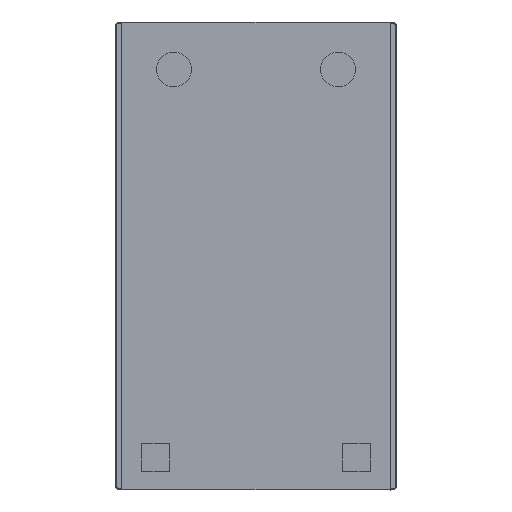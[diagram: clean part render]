
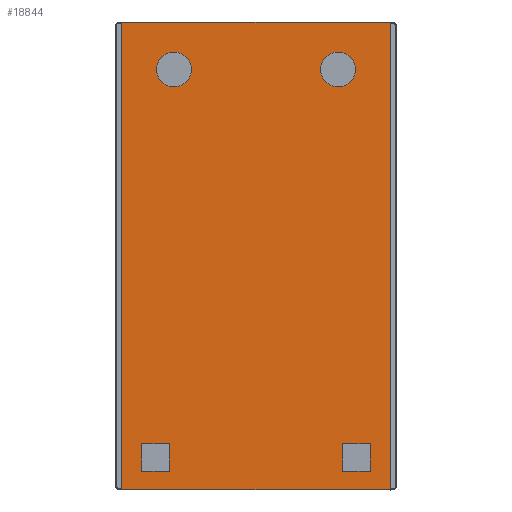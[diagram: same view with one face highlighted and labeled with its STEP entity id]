
A CAD part, front view. The second image highlights one B-rep face of the part: STEP entity #18844.
In plain terms, the highlighted planar face has unit normal (0, -1, 0).
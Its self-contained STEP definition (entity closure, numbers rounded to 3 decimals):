
#85 = VECTOR ( 'NONE', #9975, 1000. ) ;
#90 = ORIENTED_EDGE ( 'NONE', *, *, #9244, .F. ) ;
#97 = CARTESIAN_POINT ( 'NONE',  ( 9.2, 0., -193.7 ) ) ;
#164 = VERTEX_POINT ( 'NONE', #97 ) ;
#330 = EDGE_CURVE ( 'NONE', #4311, #13439, #17697, .T. ) ;
#360 = VECTOR ( 'NONE', #4189, 1000. ) ;
#396 = VECTOR ( 'NONE', #13248, 1000. ) ;
#790 = FACE_BOUND ( 'NONE', #17675, .T. ) ;
#849 = ORIENTED_EDGE ( 'NONE', *, *, #10209, .T. ) ;
#932 = ORIENTED_EDGE ( 'NONE', *, *, #7067, .F. ) ;
#1125 = PLANE ( 'NONE',  #8929 ) ;
#1225 = DIRECTION ( 'NONE',  ( 0., -1., 0. ) ) ;
#1666 = VECTOR ( 'NONE', #12642, 1000. ) ;
#1703 = DIRECTION ( 'NONE',  ( 0., 0., 1. ) ) ;
#2226 = VECTOR ( 'NONE', #2486, 1000. ) ;
#2396 = LINE ( 'NONE', #17363, #360 ) ;
#2470 = CARTESIAN_POINT ( 'NONE',  ( 123.4, 0., 0. ) ) ;
#2486 = DIRECTION ( 'NONE',  ( 1., 0., 0. ) ) ;
#2573 = LINE ( 'NONE', #12661, #13240 ) ;
#2646 = LINE ( 'NONE', #18240, #3174 ) ;
#3025 = EDGE_CURVE ( 'NONE', #164, #11006, #2646, .T. ) ;
#3174 = VECTOR ( 'NONE', #6334, 1000. ) ;
#3184 = DIRECTION ( 'NONE',  ( 0., -1., 0. ) ) ;
#3383 = DIRECTION ( 'NONE',  ( 0., -1., 0. ) ) ;
#3518 = AXIS2_PLACEMENT_3D ( 'NONE', #16753, #3383, #1703 ) ;
#3612 = VERTEX_POINT ( 'NONE', #17285 ) ;
#3920 = CARTESIAN_POINT ( 'NONE',  ( 24., 0., -13.8 ) ) ;
#4083 = CARTESIAN_POINT ( 'NONE',  ( 101.5, 0., -193.7 ) ) ;
#4189 = DIRECTION ( 'NONE',  ( 0., 0., -1. ) ) ;
#4311 = VERTEX_POINT ( 'NONE', #12742 ) ;
#4390 = ORIENTED_EDGE ( 'NONE', *, *, #9544, .F. ) ;
#4463 = ORIENTED_EDGE ( 'NONE', *, *, #12209, .F. ) ;
#4491 = CARTESIAN_POINT ( 'NONE',  ( 0., 0., -215. ) ) ;
#4907 = CARTESIAN_POINT ( 'NONE',  ( 24., 0., -21.8 ) ) ;
#4953 = EDGE_LOOP ( 'NONE', ( #20095, #19405 ) ) ;
#5008 = VERTEX_POINT ( 'NONE', #7727 ) ;
#5065 = VERTEX_POINT ( 'NONE', #21607 ) ;
#5183 = EDGE_CURVE ( 'NONE', #12893, #18781, #11138, .T. ) ;
#5889 = EDGE_CURVE ( 'NONE', #3612, #22081, #19487, .T. ) ;
#6165 = ORIENTED_EDGE ( 'NONE', *, *, #7615, .F. ) ;
#6334 = DIRECTION ( 'NONE',  ( 0., 0., -1. ) ) ;
#6433 = ORIENTED_EDGE ( 'NONE', *, *, #5889, .F. ) ;
#6570 = CARTESIAN_POINT ( 'NONE',  ( 24., 0., -29.8 ) ) ;
#7067 = EDGE_CURVE ( 'NONE', #10548, #164, #7910, .T. ) ;
#7362 = CARTESIAN_POINT ( 'NONE',  ( 101.5, 0., -206.4 ) ) ;
#7370 = CARTESIAN_POINT ( 'NONE',  ( 9.2, 0., -206.4 ) ) ;
#7615 = EDGE_CURVE ( 'NONE', #11006, #12381, #7637, .T. ) ;
#7637 = LINE ( 'NONE', #21508, #2226 ) ;
#7641 = ORIENTED_EDGE ( 'NONE', *, *, #17681, .T. ) ;
#7662 = EDGE_CURVE ( 'NONE', #12381, #10548, #20231, .T. ) ;
#7727 = CARTESIAN_POINT ( 'NONE',  ( 0., 0., 0. ) ) ;
#7799 = CARTESIAN_POINT ( 'NONE',  ( 99.4, 0., -29.8 ) ) ;
#7910 = LINE ( 'NONE', #8239, #11526 ) ;
#7958 = DIRECTION ( 'NONE',  ( 0., 0., 1. ) ) ;
#8077 = EDGE_CURVE ( 'NONE', #5065, #3612, #22128, .T. ) ;
#8239 = CARTESIAN_POINT ( 'NONE',  ( 9.2, 0., -193.7 ) ) ;
#8692 = DIRECTION ( 'NONE',  ( -1., 0., 0. ) ) ;
#8929 = AXIS2_PLACEMENT_3D ( 'NONE', #2470, #11114, #16619 ) ;
#9244 = EDGE_CURVE ( 'NONE', #12711, #4311, #2396, .T. ) ;
#9314 = FACE_BOUND ( 'NONE', #11448, .T. ) ;
#9544 = EDGE_CURVE ( 'NONE', #15868, #15486, #10758, .T. ) ;
#9772 = FACE_BOUND ( 'NONE', #20624, .T. ) ;
#9975 = DIRECTION ( 'NONE',  ( 0., 0., 1. ) ) ;
#10136 = VECTOR ( 'NONE', #8692, 1000. ) ;
#10209 = EDGE_CURVE ( 'NONE', #12711, #5008, #16832, .T. ) ;
#10548 = VERTEX_POINT ( 'NONE', #11642 ) ;
#10625 = CARTESIAN_POINT ( 'NONE',  ( 123.4, 0., -215. ) ) ;
#10758 = CIRCLE ( 'NONE', #19763, 8. ) ;
#10780 = DIRECTION ( 'NONE',  ( 0., 0., 1. ) ) ;
#11006 = VERTEX_POINT ( 'NONE', #7370 ) ;
#11114 = DIRECTION ( 'NONE',  ( 0., 1., 0. ) ) ;
#11138 = CIRCLE ( 'NONE', #15069, 8. ) ;
#11443 = AXIS2_PLACEMENT_3D ( 'NONE', #21030, #12564, #10780 ) ;
#11448 = EDGE_LOOP ( 'NONE', ( #4390, #13075 ) ) ;
#11526 = VECTOR ( 'NONE', #20072, 1000. ) ;
#11642 = CARTESIAN_POINT ( 'NONE',  ( 21.9, 0., -193.7 ) ) ;
#11653 = CARTESIAN_POINT ( 'NONE',  ( 21.9, 0., -193.7 ) ) ;
#11713 = DIRECTION ( 'NONE',  ( 0., 0., 1. ) ) ;
#11992 = CARTESIAN_POINT ( 'NONE',  ( 123.4, 0., 0. ) ) ;
#12209 = EDGE_CURVE ( 'NONE', #18708, #5065, #19426, .T. ) ;
#12381 = VERTEX_POINT ( 'NONE', #18940 ) ;
#12478 = VECTOR ( 'NONE', #14334, 1000. ) ;
#12564 = DIRECTION ( 'NONE',  ( 0., -1., 0. ) ) ;
#12642 = DIRECTION ( 'NONE',  ( -1., 0., 0. ) ) ;
#12661 = CARTESIAN_POINT ( 'NONE',  ( 0., 0., 0. ) ) ;
#12711 = VERTEX_POINT ( 'NONE', #20202 ) ;
#12723 = DIRECTION ( 'NONE',  ( 0., 0., -1. ) ) ;
#12742 = CARTESIAN_POINT ( 'NONE',  ( 123.4, 0., -215. ) ) ;
#12893 = VERTEX_POINT ( 'NONE', #6570 ) ;
#13075 = ORIENTED_EDGE ( 'NONE', *, *, #18796, .F. ) ;
#13240 = VECTOR ( 'NONE', #19529, 1000. ) ;
#13248 = DIRECTION ( 'NONE',  ( -1., 0., 0. ) ) ;
#13439 = VERTEX_POINT ( 'NONE', #4491 ) ;
#13611 = CARTESIAN_POINT ( 'NONE',  ( 99.4, 0., -21.8 ) ) ;
#13661 = ORIENTED_EDGE ( 'NONE', *, *, #7662, .F. ) ;
#13946 = CIRCLE ( 'NONE', #11443, 8. ) ;
#14334 = DIRECTION ( 'NONE',  ( 1., 0., 0. ) ) ;
#14383 = ORIENTED_EDGE ( 'NONE', *, *, #3025, .F. ) ;
#14808 = FACE_OUTER_BOUND ( 'NONE', #16985, .T. ) ;
#15069 = AXIS2_PLACEMENT_3D ( 'NONE', #4907, #1225, #7958 ) ;
#15486 = VERTEX_POINT ( 'NONE', #7799 ) ;
#15495 = VECTOR ( 'NONE', #19532, 1000. ) ;
#15868 = VERTEX_POINT ( 'NONE', #16421 ) ;
#15904 = LINE ( 'NONE', #7362, #12478 ) ;
#16421 = CARTESIAN_POINT ( 'NONE',  ( 99.4, 0., -13.8 ) ) ;
#16619 = DIRECTION ( 'NONE',  ( 0., 0., 1. ) ) ;
#16753 = CARTESIAN_POINT ( 'NONE',  ( 24., 0., -21.8 ) ) ;
#16832 = LINE ( 'NONE', #11992, #396 ) ;
#16985 = EDGE_LOOP ( 'NONE', ( #7641, #20170, #90, #849 ) ) ;
#17071 = EDGE_CURVE ( 'NONE', #18781, #12893, #22233, .T. ) ;
#17285 = CARTESIAN_POINT ( 'NONE',  ( 101.5, 0., -193.7 ) ) ;
#17363 = CARTESIAN_POINT ( 'NONE',  ( 123.4, 0., 0. ) ) ;
#17675 = EDGE_LOOP ( 'NONE', ( #14383, #932, #13661, #6165 ) ) ;
#17681 = EDGE_CURVE ( 'NONE', #5008, #13439, #2573, .T. ) ;
#17697 = LINE ( 'NONE', #10625, #1666 ) ;
#18240 = CARTESIAN_POINT ( 'NONE',  ( 9.2, 0., -193.7 ) ) ;
#18453 = ORIENTED_EDGE ( 'NONE', *, *, #8077, .F. ) ;
#18703 = CARTESIAN_POINT ( 'NONE',  ( 101.5, 0., -193.7 ) ) ;
#18708 = VERTEX_POINT ( 'NONE', #20695 ) ;
#18781 = VERTEX_POINT ( 'NONE', #3920 ) ;
#18796 = EDGE_CURVE ( 'NONE', #15486, #15868, #13946, .T. ) ;
#18844 = ADVANCED_FACE ( 'NONE', ( #790, #19662, #9314, #14808, #9772 ), #1125, .F. ) ;
#18940 = CARTESIAN_POINT ( 'NONE',  ( 21.9, 0., -206.4 ) ) ;
#19061 = VECTOR ( 'NONE', #12723, 1000. ) ;
#19405 = ORIENTED_EDGE ( 'NONE', *, *, #5183, .F. ) ;
#19426 = LINE ( 'NONE', #21256, #15495 ) ;
#19487 = LINE ( 'NONE', #4083, #19061 ) ;
#19529 = DIRECTION ( 'NONE',  ( 0., 0., -1. ) ) ;
#19532 = DIRECTION ( 'NONE',  ( 0., 0., 1. ) ) ;
#19662 = FACE_BOUND ( 'NONE', #4953, .T. ) ;
#19763 = AXIS2_PLACEMENT_3D ( 'NONE', #13611, #3184, #11713 ) ;
#20072 = DIRECTION ( 'NONE',  ( -1., 0., 0. ) ) ;
#20095 = ORIENTED_EDGE ( 'NONE', *, *, #17071, .F. ) ;
#20159 = CARTESIAN_POINT ( 'NONE',  ( 101.5, 0., -206.4 ) ) ;
#20170 = ORIENTED_EDGE ( 'NONE', *, *, #330, .F. ) ;
#20202 = CARTESIAN_POINT ( 'NONE',  ( 123.4, 0., 0. ) ) ;
#20231 = LINE ( 'NONE', #11653, #85 ) ;
#20446 = ORIENTED_EDGE ( 'NONE', *, *, #21711, .F. ) ;
#20624 = EDGE_LOOP ( 'NONE', ( #6433, #18453, #4463, #20446 ) ) ;
#20695 = CARTESIAN_POINT ( 'NONE',  ( 114.2, 0., -206.4 ) ) ;
#21030 = CARTESIAN_POINT ( 'NONE',  ( 99.4, 0., -21.8 ) ) ;
#21256 = CARTESIAN_POINT ( 'NONE',  ( 114.2, 0., -193.7 ) ) ;
#21508 = CARTESIAN_POINT ( 'NONE',  ( 9.2, 0., -206.4 ) ) ;
#21607 = CARTESIAN_POINT ( 'NONE',  ( 114.2, 0., -193.7 ) ) ;
#21711 = EDGE_CURVE ( 'NONE', #22081, #18708, #15904, .T. ) ;
#22081 = VERTEX_POINT ( 'NONE', #20159 ) ;
#22128 = LINE ( 'NONE', #18703, #10136 ) ;
#22233 = CIRCLE ( 'NONE', #3518, 8. ) ;
